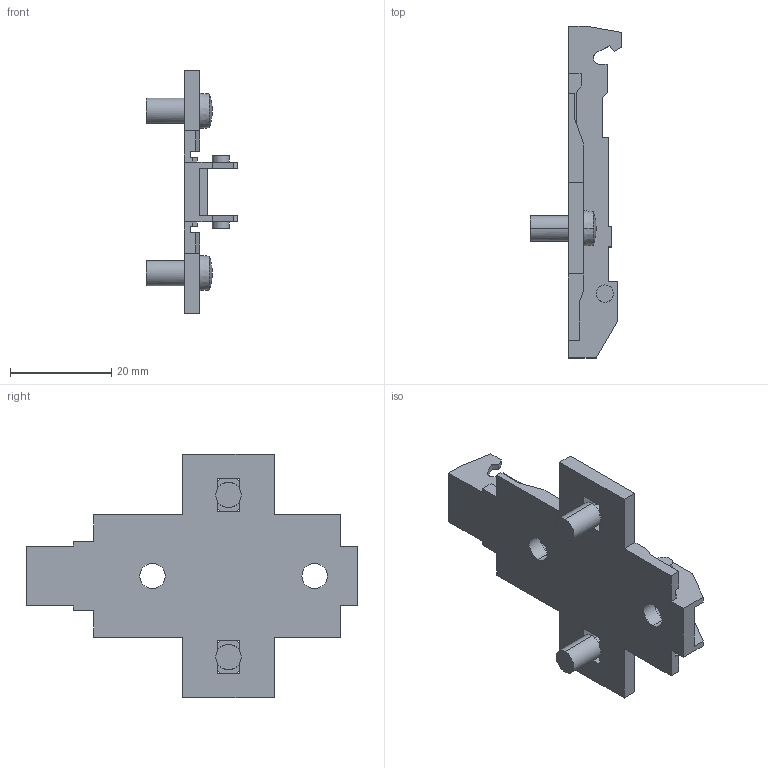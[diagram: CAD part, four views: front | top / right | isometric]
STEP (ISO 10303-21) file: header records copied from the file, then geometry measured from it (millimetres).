
FILE_DESCRIPTION (( 'STEP AP214' ), '1' );
FILE_NAME ('1D_Kreuzmontageplatte 37_32_5mm_Dübel_kurz_0.step', '2010-11-18T10:21:00', ( 'grass' ), ( '' ), 'SwSTEP 2.0', 'SolidWorks 2010', '' );
FILE_SCHEMA (( 'AUTOMOTIVE_DESIGN' ));
Length unit declared in the file: millimetre
Products named in the file (1): 1D_Kreuzmontageplatte 37_32_5mm_Dübel_kurz_0
Bounding box: 18 x 65.5 x 48 mm (x, y, z)
Volume: 6166.6 mm3; surface area: 6457.6 mm2
Topology: 1 solids, 1 shells, 130 faces, 400 edges, 258 vertices
Faces by surface type: plane 100, cylinder 22, sphere 4, cone 4
Entity records: 4506 total; most frequent: ORIENTED_EDGE 800, CARTESIAN_POINT 789, DIRECTION 742, EDGE_CURVE 400, LINE 320, VECTOR 320, VERTEX_POINT 258, AXIS2_PLACEMENT_3D 211
